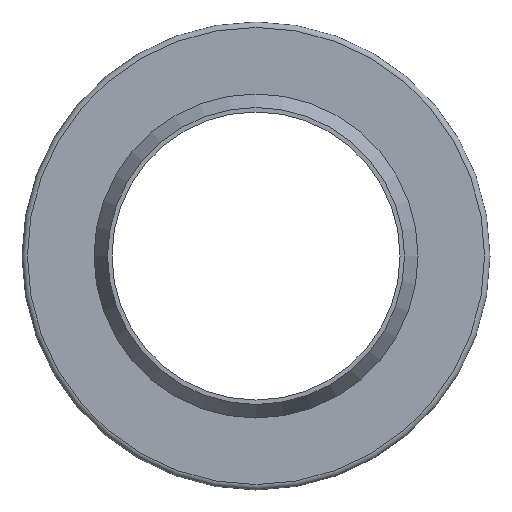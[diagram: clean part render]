
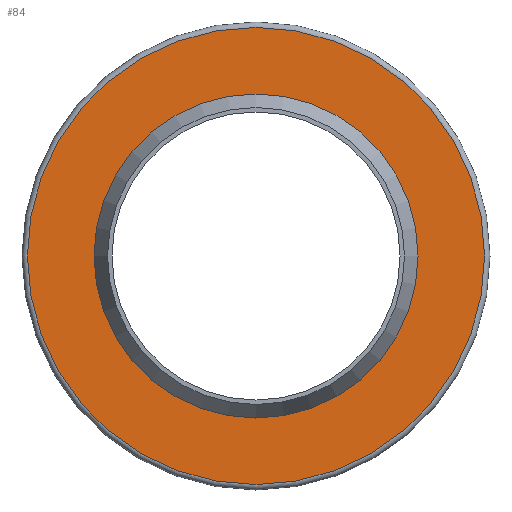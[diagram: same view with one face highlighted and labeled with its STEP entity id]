
A CAD part, left-side view. The second image highlights one B-rep face of the part: STEP entity #84.
In plain terms, the highlighted planar face has unit normal (-1, 0, 0).
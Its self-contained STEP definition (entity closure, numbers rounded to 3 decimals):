
#84=ADVANCED_FACE('',(#117,#118),#119,.T.);
#117=FACE_OUTER_BOUND('',#159,.T.);
#118=FACE_BOUND('',#160,.T.);
#119=PLANE('',#161);
#159=EDGE_LOOP('',(#219));
#160=EDGE_LOOP('',(#220));
#161=AXIS2_PLACEMENT_3D('',#221,#222,#223);
#219=ORIENTED_EDGE('',*,*,#254,.T.);
#220=ORIENTED_EDGE('',*,*,#253,.F.);
#221=CARTESIAN_POINT('',(-3.,9.0,0.0));
#222=DIRECTION('',(-1.0,0.0,0.0));
#223=DIRECTION('',(0.0,0.0,1.0));
#253=EDGE_CURVE('',#276,#276,#277,.T.);
#254=EDGE_CURVE('',#278,#278,#279,.T.);
#276=VERTEX_POINT('',#304);
#277=CIRCLE('',#305,9.0);
#278=VERTEX_POINT('',#306);
#279=CIRCLE('',#307,12.7);
#304=CARTESIAN_POINT('',(-3.,0.0,9.0));
#305=AXIS2_PLACEMENT_3D('',#341,#342,#343);
#306=CARTESIAN_POINT('',(-3.,0.0,12.7));
#307=AXIS2_PLACEMENT_3D('',#344,#345,#346);
#341=CARTESIAN_POINT('',(-3.,0.0,0.0));
#342=DIRECTION('',(-1.0,0.0,0.0));
#343=DIRECTION('',(0.0,0.0,1.0));
#344=CARTESIAN_POINT('',(-3.,0.0,0.0));
#345=DIRECTION('',(-1.0,0.0,0.0));
#346=DIRECTION('',(0.0,0.0,1.0));
